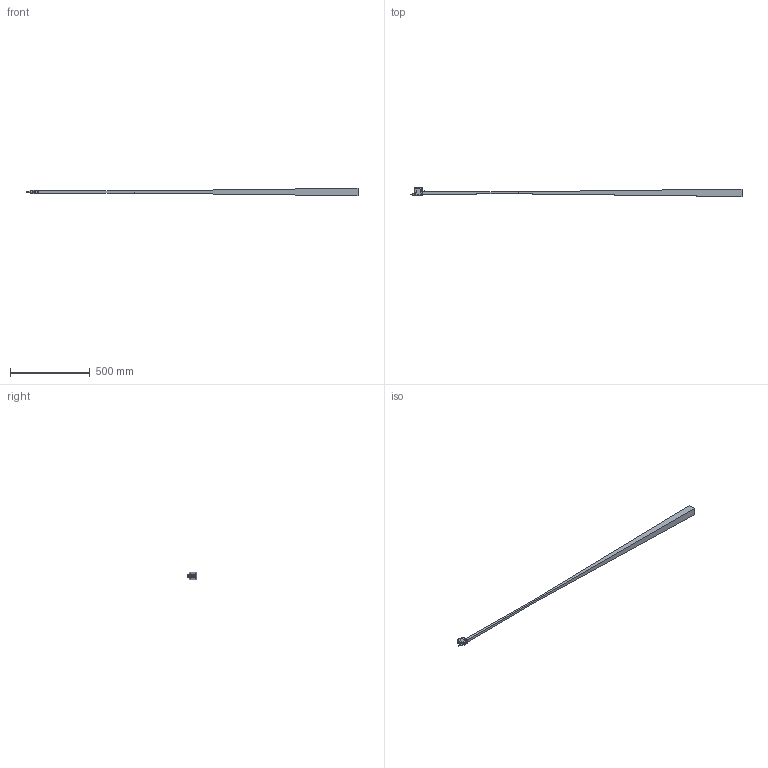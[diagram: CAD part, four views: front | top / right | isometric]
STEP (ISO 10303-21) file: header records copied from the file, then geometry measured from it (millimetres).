
FILE_DESCRIPTION(/* description */ (''),/* implementation_level */ '2;1');
FILE_NAME(/* name */ '622-21004_FT 55-R-NS-K4.stp',/* time_stamp */ '2023-10-06T10:48:18+02:00',/* author */ ('Sandra.Stahl'),/* organization */ (''),/* preprocessor_version */ 'ST-DEVELOPER v19.2',/* originating_system */ 'Autodesk Inventor 2023',/* authorisation */ '');
FILE_SCHEMA (('AUTOMOTIVE_DESIGN { 1 0 10303 214 3 1 1 }'));
Length unit declared in the file: millimetre
Products named in the file (1): GH-ENG-0039426_Vereinfachen_1
Bounding box: 2077.38 x 56.9 x 47 mm (x, y, z)
Volume: 1593721.9 mm3; surface area: 218808.6 mm2
Topology: 5 solids, 5 shells, 177 faces, 414 edges, 258 vertices
Faces by surface type: plane 90, cylinder 55, cone 10, torus 9, sphere 7, bspline 6
Full cylindrical faces by diameter (mm): 1 x1, 3.57 x1, 4.3 x1, 5 x3, 5.2 x1, 5.498 x1, 12.4 x1, 16 x1
Entity records: 5806 total; most frequent: CARTESIAN_POINT 1551, DIRECTION 831, ORIENTED_EDGE 818, EDGE_CURVE 409, AXIS2_PLACEMENT_3D 298, VERTEX_POINT 256, LINE 235, VECTOR 235
